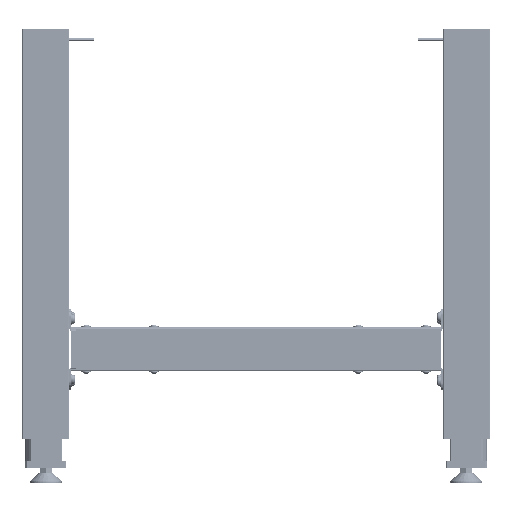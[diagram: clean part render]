
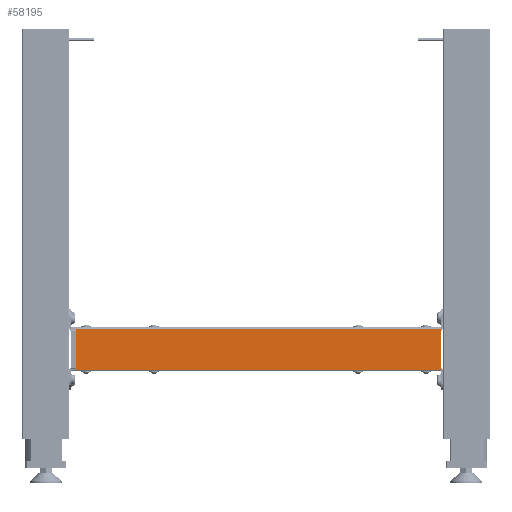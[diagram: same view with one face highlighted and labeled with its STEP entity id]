
A CAD part, front view. The second image highlights one B-rep face of the part: STEP entity #58195.
In plain terms, the highlighted planar face has unit normal (0, -1, 0) as drawn and (0, 0, -1) by its records, which use the part's own axes.
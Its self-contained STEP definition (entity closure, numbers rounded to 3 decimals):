
#18857=ORIENTED_EDGE('',*,*,#28997,.F.);
#18858=ORIENTED_EDGE('',*,*,#28983,.T.);
#18859=ORIENTED_EDGE('',*,*,#28998,.F.);
#18860=ORIENTED_EDGE('',*,*,#28991,.T.);
#28983=EDGE_CURVE('',#35241,#35242,#40851,.T.);
#28991=EDGE_CURVE('',#35249,#35250,#40855,.T.);
#28997=EDGE_CURVE('',#35241,#35250,#40859,.T.);
#28998=EDGE_CURVE('',#35249,#35242,#40860,.T.);
#35241=VERTEX_POINT('',#108362);
#35242=VERTEX_POINT('',#108363);
#35249=VERTEX_POINT('',#108380);
#35250=VERTEX_POINT('',#108381);
#40851=LINE('',#108361,#46353);
#40855=LINE('',#108379,#46357);
#40859=LINE('',#108391,#46361);
#40860=LINE('',#108392,#46362);
#46353=VECTOR('',#90356,1000.);
#46357=VECTOR('',#90372,1000.);
#46361=VECTOR('',#90384,1000.);
#46362=VECTOR('',#90385,1000.);
#49921=EDGE_LOOP('',(#18857,#18858,#18859,#18860));
#53339=FACE_BOUND('',#49921,.T.);
#55458=PLANE('',#75436);
#58195=ADVANCED_FACE('',(#53339),#55458,.T.);
#75436=AXIS2_PLACEMENT_3D('',#108390,#90382,#90383);
#90356=DIRECTION('',(-1.,0.,0.));
#90372=DIRECTION('',(1.,0.,0.));
#90382=DIRECTION('',(0.,0.,-1.));
#90383=DIRECTION('',(-1.,0.,0.));
#90384=DIRECTION('',(0.,1.,0.));
#90385=DIRECTION('',(0.,-1.,0.));
#108361=CARTESIAN_POINT('',(537.7,-29.9,-2.5));
#108362=CARTESIAN_POINT('',(537.7,-29.9,-2.5));
#108363=CARTESIAN_POINT('',(0.,-29.9,-2.5));
#108379=CARTESIAN_POINT('',(0.,29.9,-2.5));
#108380=CARTESIAN_POINT('',(0.,29.9,-2.5));
#108381=CARTESIAN_POINT('',(537.7,29.9,-2.5));
#108390=CARTESIAN_POINT('',(0.,0.,-2.5));
#108391=CARTESIAN_POINT('',(537.7,-32.5,-2.5));
#108392=CARTESIAN_POINT('',(0.,-32.5,-2.5));
